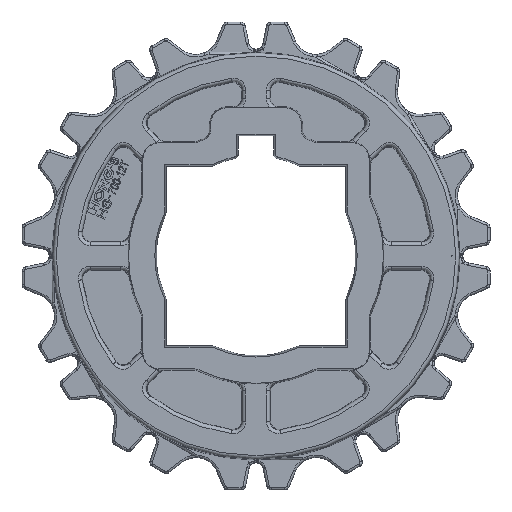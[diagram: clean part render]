
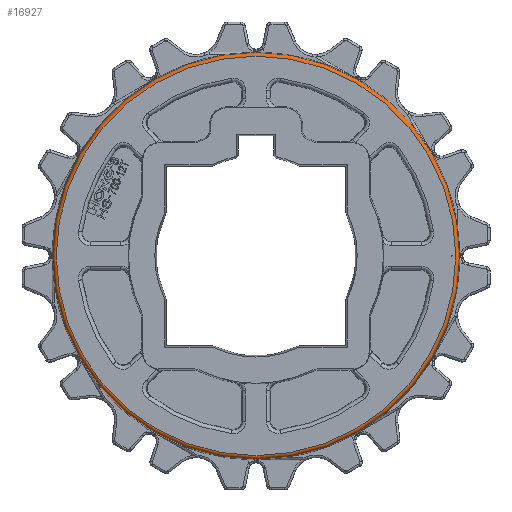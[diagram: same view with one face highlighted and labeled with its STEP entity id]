
A CAD part, top view. The second image highlights one B-rep face of the part: STEP entity #16927.
In plain terms, the highlighted toroidal (fillet/blend) face has major radius 45.027 mm and minor radius 0.8 mm.
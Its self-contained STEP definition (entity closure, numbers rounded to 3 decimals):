
#13519=TOROIDAL_SURFACE('',#47007,45.027,0.8);
#14195=FACE_BOUND('',#20973,.T.);
#14196=FACE_BOUND('',#20974,.T.);
#16927=ADVANCED_FACE('',(#14195,#14196),#13519,.T.);
#20973=EDGE_LOOP('',(#32446));
#20974=EDGE_LOOP('',(#32447));
#22251=CIRCLE('',#44416,45.027);
#23412=CIRCLE('',#47005,45.827);
#32446=ORIENTED_EDGE('',*,*,#35799,.F.);
#32447=ORIENTED_EDGE('',*,*,#39924,.F.);
#32894=VERTEX_POINT('',#56575);
#35353=VERTEX_POINT('',#76295);
#35799=EDGE_CURVE('',#32894,#32894,#22251,.T.);
#39924=EDGE_CURVE('',#35353,#35353,#23412,.T.);
#44416=AXIS2_PLACEMENT_3D('',#56574,#47698,#47699);
#47005=AXIS2_PLACEMENT_3D('',#76294,#54876,#54877);
#47007=AXIS2_PLACEMENT_3D('',#76297,#54880,#54881);
#47698=DIRECTION('',(0.,0.,1.));
#47699=DIRECTION('',(0.,1.,0.));
#54876=DIRECTION('',(0.,0.,-1.));
#54877=DIRECTION('',(0.,-1.,0.));
#54880=DIRECTION('',(0.,0.,-1.));
#54881=DIRECTION('',(0.,1.,0.));
#56574=CARTESIAN_POINT('',(0.,0.,10.7));
#56575=CARTESIAN_POINT('',(0.,45.027,10.7));
#76294=CARTESIAN_POINT('',(0.,0.,9.914));
#76295=CARTESIAN_POINT('',(0.,-45.827,9.914));
#76297=CARTESIAN_POINT('',(0.,0.,9.9));
